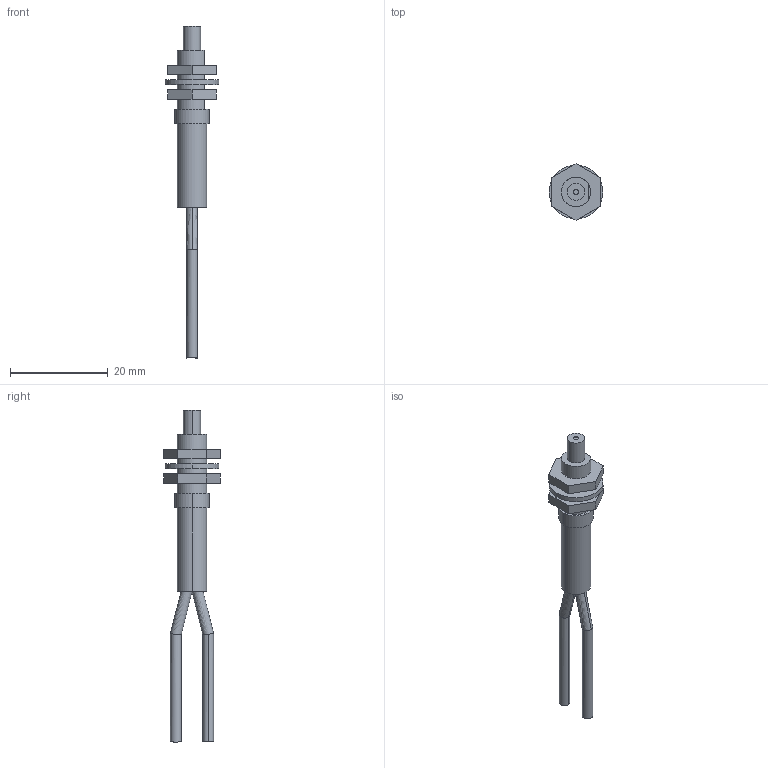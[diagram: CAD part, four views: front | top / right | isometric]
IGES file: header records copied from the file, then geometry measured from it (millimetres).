
Start section: SolidWorks IGES FILE using analytic representation for surfaces
Global section: file name: C:\Documents and Settings\yk0651\デスクトップ\3D_catalog_050904\0_IGES\FD-FM2.IGS; native system: SolidWorks 2004 by SolidWorks Corporation; preprocessor: Version 5.3; author: yk0651; date: 050904.182953; units: millimetre
Bounding box: 11 x 11.55 x 67.8 mm (x, y, z)
Volume: 1506.2 mm3; surface area: 1806.1 mm2
Topology: 4 solids, 4 shells, 55 faces, 120 edges, 79 vertices
Faces by surface type: revolution 28, plane 27
